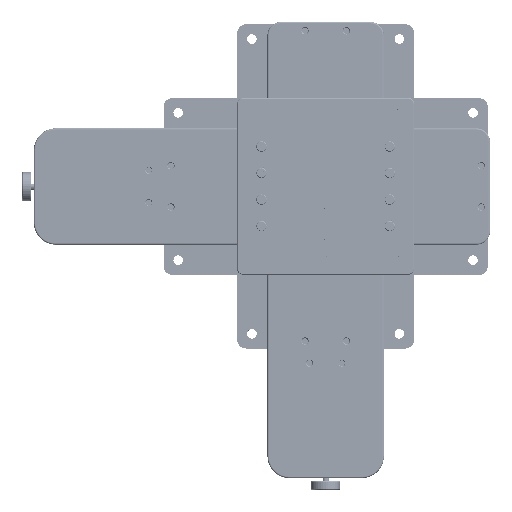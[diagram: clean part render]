
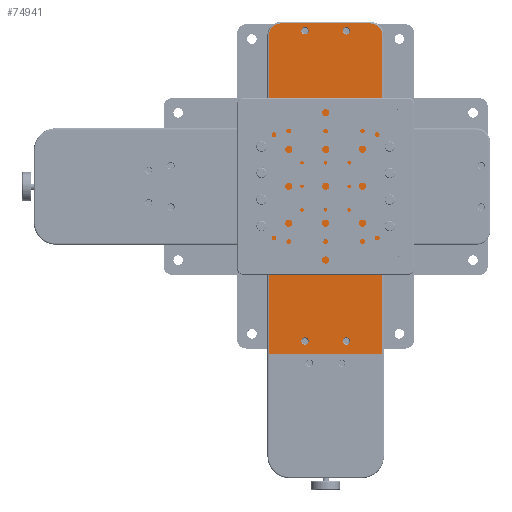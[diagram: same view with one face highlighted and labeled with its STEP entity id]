
A CAD part, top view. The second image highlights one B-rep face of the part: STEP entity #74941.
In plain terms, the highlighted planar face has unit normal (0, 0, 1).
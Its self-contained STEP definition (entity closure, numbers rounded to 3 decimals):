
#74387=CARTESIAN_POINT('',(-114.,-38.5,31.));
#74388=VERTEX_POINT('',#74387);
#74404=CARTESIAN_POINT('',(102.5,-38.5,31.));
#74405=VERTEX_POINT('',#74404);
#74413=CARTESIAN_POINT('',(102.5,-38.5,31.));
#74414=DIRECTION('',(-1.0,0.0,0.0));
#74415=VECTOR('',#74414,216.5);
#74416=LINE('',#74413,#74415);
#74417=EDGE_CURVE('',#74405,#74388,#74416,.T.);
#74429=CARTESIAN_POINT('',(110.5,-30.5,31.));
#74430=VERTEX_POINT('',#74429);
#74438=CARTESIAN_POINT('',(102.5,-30.5,31.));
#74439=DIRECTION('',(0.,0.,-1.0));
#74440=DIRECTION('',(0.707,-0.707,0.));
#74441=AXIS2_PLACEMENT_3D('',#74438,#74439,#74440);
#74442=CIRCLE('',#74441,8.);
#74443=EDGE_CURVE('',#74430,#74405,#74442,.T.);
#74463=CARTESIAN_POINT('',(110.5,30.5,31.));
#74464=VERTEX_POINT('',#74463);
#74472=CARTESIAN_POINT('',(110.5,30.5,31.));
#74473=DIRECTION('',(0.0,-1.0,0.0));
#74474=VECTOR('',#74473,61.);
#74475=LINE('',#74472,#74474);
#74476=EDGE_CURVE('',#74464,#74430,#74475,.T.);
#74495=CARTESIAN_POINT('',(102.5,38.5,31.));
#74496=VERTEX_POINT('',#74495);
#74504=CARTESIAN_POINT('',(102.5,30.5,31.));
#74505=DIRECTION('',(0.,0.,-1.0));
#74506=DIRECTION('',(0.707,0.707,0.));
#74507=AXIS2_PLACEMENT_3D('',#74504,#74505,#74506);
#74508=CIRCLE('',#74507,8.0);
#74509=EDGE_CURVE('',#74496,#74464,#74508,.T.);
#74527=CARTESIAN_POINT('',(-114.,38.5,31.));
#74528=VERTEX_POINT('',#74527);
#74538=CARTESIAN_POINT('',(-114.,38.5,31.));
#74539=DIRECTION('',(1.0,0.0,0.0));
#74540=VECTOR('',#74539,216.5);
#74541=LINE('',#74538,#74540);
#74542=EDGE_CURVE('',#74528,#74496,#74541,.T.);
#74756=CARTESIAN_POINT('',(108.,14.,31.));
#74757=VERTEX_POINT('',#74756);
#74758=CARTESIAN_POINT('',(105.5,14.,31.));
#74759=DIRECTION('',(0.0,0.0,-1.0));
#74760=DIRECTION('',(1.0,0.0,0.0));
#74761=AXIS2_PLACEMENT_3D('',#74758,#74759,#74760);
#74762=CIRCLE('',#74761,2.5);
#74763=EDGE_CURVE('',#74757,#74757,#74762,.T.);
#74797=CARTESIAN_POINT('',(108.,-14.,31.));
#74798=VERTEX_POINT('',#74797);
#74799=CARTESIAN_POINT('',(105.5,-14.,31.));
#74800=DIRECTION('',(0.0,0.0,-1.0));
#74801=DIRECTION('',(1.0,0.0,0.0));
#74802=AXIS2_PLACEMENT_3D('',#74799,#74800,#74801);
#74803=CIRCLE('',#74802,2.5);
#74804=EDGE_CURVE('',#74798,#74798,#74803,.T.);
#74846=CARTESIAN_POINT('',(-102.5,14.,31.));
#74847=VERTEX_POINT('',#74846);
#74848=CARTESIAN_POINT('',(-105.,14.,31.));
#74849=DIRECTION('',(0.0,0.0,-1.0));
#74850=DIRECTION('',(1.0,0.0,0.0));
#74851=AXIS2_PLACEMENT_3D('',#74848,#74849,#74850);
#74852=CIRCLE('',#74851,2.5);
#74853=EDGE_CURVE('',#74847,#74847,#74852,.T.);
#74887=CARTESIAN_POINT('',(-102.5,-14.,31.0));
#74888=VERTEX_POINT('',#74887);
#74889=CARTESIAN_POINT('',(-105.,-14.,31.0));
#74890=DIRECTION('',(0.0,0.0,-1.0));
#74891=DIRECTION('',(1.0,0.0,0.0));
#74892=AXIS2_PLACEMENT_3D('',#74889,#74890,#74891);
#74893=CIRCLE('',#74892,2.5);
#74894=EDGE_CURVE('',#74888,#74888,#74893,.T.);
#74911=CARTESIAN_POINT('',(-1.25,0.,31.));
#74912=DIRECTION('',(0.0,0.0,1.0));
#74913=DIRECTION('',(1.0,0.0,0.0));
#74914=AXIS2_PLACEMENT_3D('',#74911,#74912,#74913);
#74915=PLANE('',#74914);
#74916=ORIENTED_EDGE('',*,*,#74542,.F.);
#74917=CARTESIAN_POINT('',(-114.,-38.5,31.));
#74918=DIRECTION('',(0.0,1.0,0.0));
#74919=VECTOR('',#74918,77.);
#74920=LINE('',#74917,#74919);
#74921=EDGE_CURVE('',#74388,#74528,#74920,.T.);
#74922=ORIENTED_EDGE('',*,*,#74921,.F.);
#74923=ORIENTED_EDGE('',*,*,#74417,.F.);
#74924=ORIENTED_EDGE('',*,*,#74443,.F.);
#74925=ORIENTED_EDGE('',*,*,#74476,.F.);
#74926=ORIENTED_EDGE('',*,*,#74509,.F.);
#74927=EDGE_LOOP('',(#74916,#74922,#74923,#74924,#74925,#74926));
#74928=FACE_OUTER_BOUND('',#74927,.T.);
#74929=ORIENTED_EDGE('',*,*,#74763,.T.);
#74930=EDGE_LOOP('',(#74929));
#74931=FACE_BOUND('',#74930,.T.);
#74932=ORIENTED_EDGE('',*,*,#74804,.T.);
#74933=EDGE_LOOP('',(#74932));
#74934=FACE_BOUND('',#74933,.T.);
#74935=ORIENTED_EDGE('',*,*,#74853,.T.);
#74936=EDGE_LOOP('',(#74935));
#74937=FACE_BOUND('',#74936,.T.);
#74938=ORIENTED_EDGE('',*,*,#74894,.T.);
#74939=EDGE_LOOP('',(#74938));
#74940=FACE_BOUND('',#74939,.T.);
#74941=ADVANCED_FACE('',(#74928,#74931,#74934,#74937,#74940),#74915,.T.);
